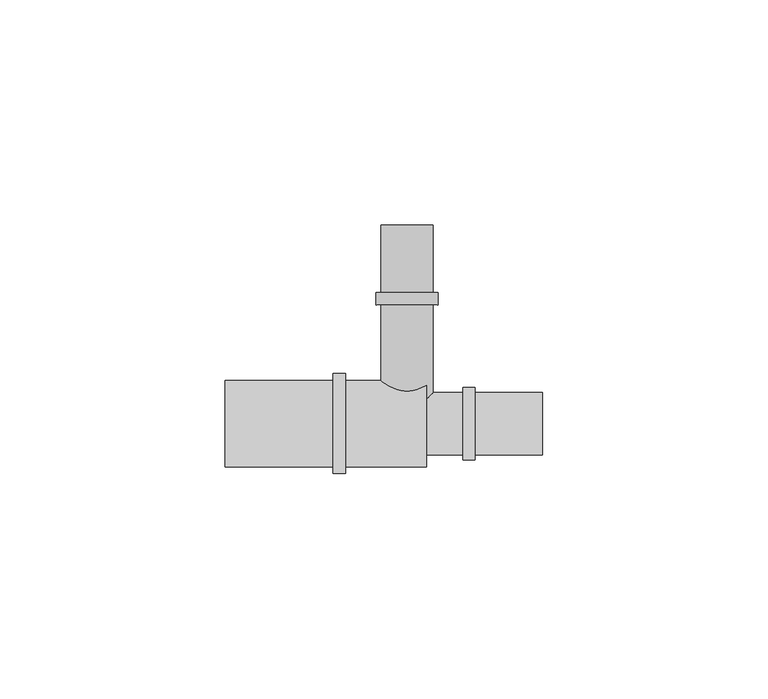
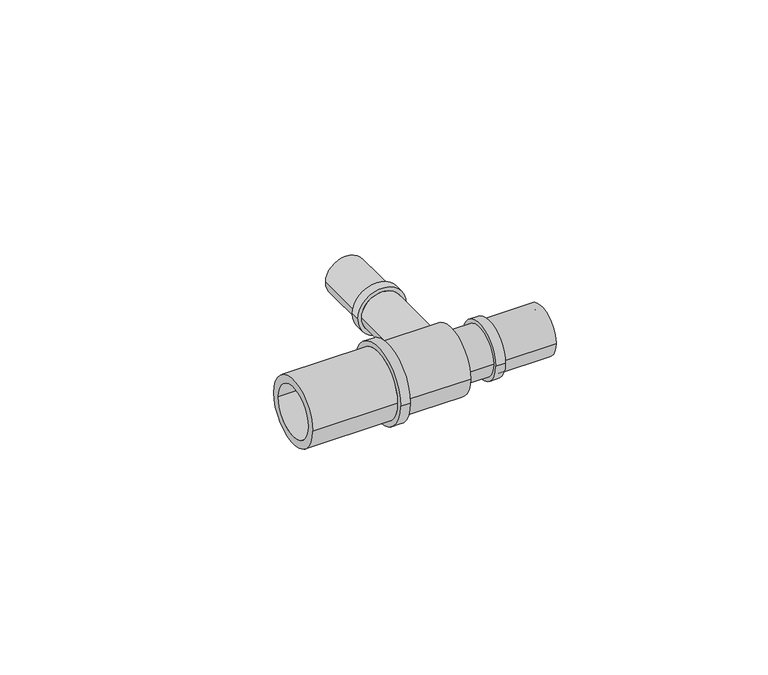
"""IFC4 building model written with IfcOpenShell, lengths in millimetres: pipe fitting geometry, FASTLOC_T-piece_LX : FSL T-Piece LX PL."""

from ifc_helpers import new_model, si_unit, frame, origin, place, context, project, spatial, polyline, circle_curve, source, transform, mapped, element, save
from ifc_brep_helpers import plane_surface, cylinder_surface, revolved_surface, advanced_brep


def pipe_fitting_b03326a8(model_context):
    return source(origin(), model_context, "Body", "AdvancedBrep", [
        advanced_brep(
        [(3.95, 44.1, 0.0), (-3.95, 44.1, 0.0), (-3.95, 0.0, 0.0), (3.95, 0.0, 0.0), (5.8, 0.0, 0.0), (-5.8, 0.0, 0.0), (-5.8, 26.39, 0.0), (5.8, 26.39, 0.0), (6.9, 26.39, 0.0), (-6.9, 26.39, 0.0), (-6.9, 29.1, 0.0), (6.9, 29.1, 0.0), (5.8, 29.1, 0.0), (-5.8, 29.1, 0.0), (-5.8, 44.1, 0.0), (5.8, 44.1, 0.0)],
        [
            (0, 1, circle_curve(frame((0.0, 44.1, 0.0), z_axis=(0.0, 1.0, 0.0), x_axis=(-1.0, 0.0, 0.0)), 3.95)),
            (1, 2),
            (2, 3, circle_curve(frame((0.0, 0.0, 0.0), z_axis=(0.0, -1.0, 0.0), x_axis=(-1.0, 0.0, 0.0)), 3.95)),
            (3, 0),
            (4, 5, circle_curve(frame((0.0, 0.0, 0.0), z_axis=(0.0, 1.0, 0.0), x_axis=(-1.0, 0.0, 0.0)), 5.8)),
            (5, 6),
            (6, 7, circle_curve(frame((0.0, 26.39, 0.0), z_axis=(0.0, -1.0, 0.0), x_axis=(-1.0, 0.0, 0.0)), 5.8)),
            (7, 4),
            (8, 9, circle_curve(frame((0.0, 26.39, 0.0), z_axis=(0.0, 1.0, 0.0), x_axis=(-1.0, 0.0, 0.0)), 6.9)),
            (9, 10),
            (10, 11, circle_curve(frame((0.0, 29.1, 0.0), z_axis=(0.0, -1.0, 0.0), x_axis=(-1.0, 0.0, 0.0)), 6.9)),
            (11, 8),
            (12, 13, circle_curve(frame((0.0, 29.1, 0.0), z_axis=(0.0, 1.0, 0.0), x_axis=(-1.0, 0.0, 0.0)), 5.8)),
            (13, 14),
            (14, 15, circle_curve(frame((0.0, 44.1, 0.0), z_axis=(0.0, -1.0, 0.0), x_axis=(-1.0, 0.0, 0.0)), 5.8)),
            (15, 12),
            (1, 0, circle_curve(frame((0.0, 44.1, 0.0), z_axis=(0.0, 1.0, 0.0), x_axis=(1.0, 0.0, 0.0)), 3.95)),
            (3, 2, circle_curve(frame((0.0, 0.0, 0.0), z_axis=(0.0, -1.0, 0.0), x_axis=(1.0, 0.0, 0.0)), 3.95)),
            (4, 5, circle_curve(frame((0.0, 0.0, 0.0), z_axis=(0.0, -1.0, 0.0), x_axis=(1.0, 0.0, 0.0)), 5.8)),
            (7, 6, circle_curve(frame((0.0, 26.39, 0.0), z_axis=(0.0, -1.0, 0.0), x_axis=(1.0, 0.0, 0.0)), 5.8)),
            (8, 9, circle_curve(frame((0.0, 26.39, 0.0), z_axis=(0.0, -1.0, 0.0), x_axis=(1.0, 0.0, 0.0)), 6.9)),
            (11, 10, circle_curve(frame((0.0, 29.1, 0.0), z_axis=(0.0, -1.0, 0.0), x_axis=(1.0, 0.0, 0.0)), 6.9)),
            (12, 13, circle_curve(frame((0.0, 29.1, 0.0), z_axis=(0.0, -1.0, 0.0), x_axis=(1.0, 0.0, 0.0)), 5.8)),
            (15, 14, circle_curve(frame((0.0, 44.1, 0.0), z_axis=(0.0, -1.0, 0.0), x_axis=(1.0, 0.0, 0.0)), 5.8)),
        ],
        [
            revolved_surface(polyline([(-3.95, 0.0, 0.0), (-3.95, 44.1, 0.0)]), (0.0, 0.0, 0.0), (0.0, -1.0, 0.0)),
            cylinder_surface(frame((0.0, 0.0, 0.0), z_axis=(0.0, -1.0, 0.0), x_axis=(-1.0, 0.0, 0.0)), 5.8),
            cylinder_surface(frame((0.0, 0.0, 0.0), z_axis=(0.0, -1.0, 0.0), x_axis=(-1.0, 0.0, 0.0)), 6.9),
            revolved_surface(polyline([(3.95, 0.0, 0.0), (3.95, 44.1, 0.0)]), (0.0, 0.0, 0.0), (0.0, -1.0, 0.0)),
            plane_surface(frame((0.0, 0.0, 0.0), z_axis=(0.0, -1.0, 0.0), x_axis=(1.0, 0.0, 0.0))),
            cylinder_surface(frame((0.0, 0.0, 0.0), z_axis=(0.0, -1.0, 0.0), x_axis=(1.0, 0.0, 0.0)), 5.8),
            plane_surface(frame((0.0, 26.39, 0.0), z_axis=(0.0, -1.0, 0.0), x_axis=(1.0, 0.0, 0.0))),
            cylinder_surface(frame((0.0, 0.0, 0.0), z_axis=(0.0, -1.0, 0.0), x_axis=(1.0, 0.0, 0.0)), 6.9),
            plane_surface(frame((0.0, 29.1, 0.0), z_axis=(0.0, 1.0, 0.0), x_axis=(1.0, 0.0, 0.0))),
            plane_surface(frame((0.0, 44.1, 0.0), z_axis=(0.0, 1.0, 0.0), x_axis=(1.0, 0.0, 0.0))),
        ],
        [
            (0, [[1, 2, 3, 4]]),
            (1, [[5, 6, 7, 8]]),
            (2, [[9, 10, 11, 12]]),
            (1, [[13, 14, 15, 16]]),
            (3, [[17, -4, 18, -2]]),
            (4, [[19, -5], [-18, -3]]),
            (5, [[-19, -8, 20, -6]]),
            (6, [[21, -9], [-20, -7]]),
            (7, [[-21, -12, 22, -10]]),
            (8, [[-22, -11], [23, -13]]),
            (5, [[-23, -16, 24, -14]]),
            (9, [[-24, -15], [-17, -1]]),
        ],
    ),
        advanced_brep(
        [(12.39, 6.95, 0.0), (12.39, -6.95, 0.0), (4.35, -6.95, 0.0), (4.35, 6.95, 0.0), (15.1, 8.05, 0.0), (15.1, -8.05, 0.0), (12.39, -8.05, 0.0), (12.39, 8.05, 0.0), (30.1, 6.95, 0.0), (30.1, -6.95, 0.0), (15.1, -6.95, 0.0), (15.1, 6.95, 0.0), (2.5, 5.1, 0.0), (2.5, -5.1, 0.0), (30.1, -5.1, 0.0), (30.1, 5.1, 0.0), (-40.4, 7.35, 0.0), (-40.4, -7.35, 0.0), (2.5, -7.35, 0.0), (2.5, 7.35, 0.0), (-16.4, 9.6, 0.0), (-16.4, -9.6, 0.0), (-40.4, -9.6, 0.0), (-40.4, 9.6, 0.0), (-13.6, 11.1, 0.0), (-13.6, -11.1, 0.0), (-16.4, -11.1, 0.0), (-16.4, 11.1, 0.0), (4.35, 9.6, 0.0), (4.35, -9.6, 0.0), (-13.6, -9.6, 0.0), (-13.6, 9.6, 0.0)],
        [
            (0, 1, circle_curve(frame((12.39, 0.0, 0.0), z_axis=(-1.0, 0.0, 0.0), x_axis=(0.0, -1.0, 0.0)), 6.95)),
            (1, 2),
            (2, 3, circle_curve(frame((4.35, 0.0, 0.0), z_axis=(1.0, 0.0, 0.0), x_axis=(0.0, -1.0, 0.0)), 6.95)),
            (3, 0),
            (4, 5, circle_curve(frame((15.1, 0.0, 0.0), z_axis=(-1.0, 0.0, 0.0), x_axis=(0.0, -1.0, 0.0)), 8.05)),
            (5, 6),
            (6, 7, circle_curve(frame((12.39, 0.0, 0.0), z_axis=(1.0, 0.0, 0.0), x_axis=(0.0, -1.0, 0.0)), 8.05)),
            (7, 4),
            (8, 9, circle_curve(frame((30.1, 0.0, 0.0), z_axis=(-1.0, 0.0, 0.0), x_axis=(0.0, -1.0, 0.0)), 6.95)),
            (9, 10),
            (10, 11, circle_curve(frame((15.1, 0.0, 0.0), z_axis=(1.0, 0.0, 0.0), x_axis=(0.0, -1.0, 0.0)), 6.95)),
            (11, 8),
            (12, 13, circle_curve(frame((2.5, 0.0, 0.0), z_axis=(-1.0, 0.0, 0.0), x_axis=(0.0, -1.0, 0.0)), 5.1)),
            (13, 14),
            (14, 15, circle_curve(frame((30.1, 0.0, 0.0), z_axis=(1.0, 0.0, 0.0), x_axis=(0.0, -1.0, 0.0)), 5.1)),
            (15, 12),
            (16, 17, circle_curve(frame((-40.4, 0.0, 0.0), z_axis=(-1.0, 0.0, 0.0), x_axis=(0.0, -1.0, 0.0)), 7.35)),
            (17, 18),
            (18, 19, circle_curve(frame((2.5, 0.0, 0.0), z_axis=(1.0, 0.0, 0.0), x_axis=(0.0, -1.0, 0.0)), 7.35)),
            (19, 16),
            (20, 21, circle_curve(frame((-16.4, 0.0, 0.0), z_axis=(-1.0, 0.0, 0.0), x_axis=(0.0, -1.0, 0.0)), 9.6)),
            (21, 22),
            (22, 23, circle_curve(frame((-40.4, 0.0, 0.0), z_axis=(1.0, 0.0, 0.0), x_axis=(0.0, -1.0, 0.0)), 9.6)),
            (23, 20),
            (24, 25, circle_curve(frame((-13.6, 0.0, 0.0), z_axis=(-1.0, 0.0, 0.0), x_axis=(0.0, -1.0, 0.0)), 11.1)),
            (25, 26),
            (26, 27, circle_curve(frame((-16.4, 0.0, 0.0), z_axis=(1.0, 0.0, 0.0), x_axis=(0.0, -1.0, 0.0)), 11.1)),
            (27, 24),
            (28, 29, circle_curve(frame((4.35, 0.0, 0.0), z_axis=(-1.0, 0.0, 0.0), x_axis=(0.0, -1.0, 0.0)), 9.6)),
            (29, 30),
            (30, 31, circle_curve(frame((-13.6, 0.0, 0.0), z_axis=(1.0, 0.0, 0.0), x_axis=(0.0, -1.0, 0.0)), 9.6)),
            (31, 28),
            (28, 29, circle_curve(frame((4.35, 0.0, 0.0), z_axis=(1.0, 0.0, 0.0), x_axis=(0.0, 1.0, 0.0)), 9.6)),
            (2, 3, circle_curve(frame((4.35, 0.0, 0.0), z_axis=(-1.0, 0.0, 0.0), x_axis=(0.0, 1.0, 0.0)), 6.95)),
            (1, 0, circle_curve(frame((12.39, 0.0, 0.0), z_axis=(-1.0, 0.0, 0.0), x_axis=(0.0, 1.0, 0.0)), 6.95)),
            (6, 7, circle_curve(frame((12.39, 0.0, 0.0), z_axis=(-1.0, 0.0, 0.0), x_axis=(0.0, 1.0, 0.0)), 8.05)),
            (5, 4, circle_curve(frame((15.1, 0.0, 0.0), z_axis=(-1.0, 0.0, 0.0), x_axis=(0.0, 1.0, 0.0)), 8.05)),
            (10, 11, circle_curve(frame((15.1, 0.0, 0.0), z_axis=(-1.0, 0.0, 0.0), x_axis=(0.0, 1.0, 0.0)), 6.95)),
            (9, 8, circle_curve(frame((30.1, 0.0, 0.0), z_axis=(-1.0, 0.0, 0.0), x_axis=(0.0, 1.0, 0.0)), 6.95)),
            (14, 15, circle_curve(frame((30.1, 0.0, 0.0), z_axis=(-1.0, 0.0, 0.0), x_axis=(0.0, 1.0, 0.0)), 5.1)),
            (13, 12, circle_curve(frame((2.5, 0.0, 0.0), z_axis=(-1.0, 0.0, 0.0), x_axis=(0.0, 1.0, 0.0)), 5.1)),
            (18, 19, circle_curve(frame((2.5, 0.0, 0.0), z_axis=(-1.0, 0.0, 0.0), x_axis=(0.0, 1.0, 0.0)), 7.35)),
            (17, 16, circle_curve(frame((-40.4, 0.0, 0.0), z_axis=(-1.0, 0.0, 0.0), x_axis=(0.0, 1.0, 0.0)), 7.35)),
            (22, 23, circle_curve(frame((-40.4, 0.0, 0.0), z_axis=(-1.0, 0.0, 0.0), x_axis=(0.0, 1.0, 0.0)), 9.6)),
            (21, 20, circle_curve(frame((-16.4, 0.0, 0.0), z_axis=(-1.0, 0.0, 0.0), x_axis=(0.0, 1.0, 0.0)), 9.6)),
            (26, 27, circle_curve(frame((-16.4, 0.0, 0.0), z_axis=(-1.0, 0.0, 0.0), x_axis=(0.0, 1.0, 0.0)), 11.1)),
            (25, 24, circle_curve(frame((-13.6, 0.0, 0.0), z_axis=(-1.0, 0.0, 0.0), x_axis=(0.0, 1.0, 0.0)), 11.1)),
            (30, 31, circle_curve(frame((-13.6, 0.0, 0.0), z_axis=(-1.0, 0.0, 0.0), x_axis=(0.0, 1.0, 0.0)), 9.6)),
        ],
        [
            cylinder_surface(frame((0.0, 0.0, 0.0), z_axis=(1.0, 0.0, 0.0), x_axis=(0.0, -1.0, 0.0)), 6.95),
            cylinder_surface(frame((0.0, 0.0, 0.0), z_axis=(1.0, 0.0, 0.0), x_axis=(0.0, -1.0, 0.0)), 8.05),
            revolved_surface(polyline([(30.1, -5.1, 0.0), (2.5, -5.1, 0.0)]), (0.0, 0.0, 0.0), (1.0, 0.0, 0.0)),
            revolved_surface(polyline([(2.5, -7.35, 0.0), (-40.4, -7.35, 0.0)]), (0.0, 0.0, 0.0), (1.0, 0.0, 0.0)),
            cylinder_surface(frame((0.0, 0.0, 0.0), z_axis=(1.0, 0.0, 0.0), x_axis=(0.0, -1.0, 0.0)), 9.6),
            cylinder_surface(frame((0.0, 0.0, 0.0), z_axis=(1.0, 0.0, 0.0), x_axis=(0.0, -1.0, 0.0)), 11.1),
            plane_surface(frame((4.35, 0.0, 0.0), z_axis=(1.0, 0.0, 0.0), x_axis=(0.0, 1.0, 0.0))),
            cylinder_surface(frame((0.0, 0.0, 0.0), z_axis=(1.0, 0.0, 0.0), x_axis=(0.0, 1.0, 0.0)), 6.95),
            plane_surface(frame((12.39, 0.0, 0.0), z_axis=(-1.0, 0.0, 0.0), x_axis=(0.0, 1.0, 0.0))),
            cylinder_surface(frame((0.0, 0.0, 0.0), z_axis=(1.0, 0.0, 0.0), x_axis=(0.0, 1.0, 0.0)), 8.05),
            plane_surface(frame((15.1, 0.0, 0.0), z_axis=(1.0, 0.0, 0.0), x_axis=(0.0, 1.0, 0.0))),
            plane_surface(frame((30.1, 0.0, 0.0), z_axis=(1.0, 0.0, 0.0), x_axis=(0.0, 1.0, 0.0))),
            revolved_surface(polyline([(30.1, 5.1, 0.0), (2.5, 5.1, 0.0)]), (0.0, 0.0, 0.0), (1.0, 0.0, 0.0)),
            plane_surface(frame((2.5, 0.0, 0.0), z_axis=(-1.0, 0.0, 0.0), x_axis=(0.0, 1.0, 0.0))),
            revolved_surface(polyline([(2.5, 7.35, 0.0), (-40.4, 7.35, 0.0)]), (0.0, 0.0, 0.0), (1.0, 0.0, 0.0)),
            plane_surface(frame((-40.4, 0.0, 0.0), z_axis=(-1.0, 0.0, 0.0), x_axis=(0.0, 1.0, 0.0))),
            cylinder_surface(frame((0.0, 0.0, 0.0), z_axis=(1.0, 0.0, 0.0), x_axis=(0.0, 1.0, 0.0)), 9.6),
            plane_surface(frame((-16.4, 0.0, 0.0), z_axis=(-1.0, 0.0, 0.0), x_axis=(0.0, 1.0, 0.0))),
            cylinder_surface(frame((0.0, 0.0, 0.0), z_axis=(1.0, 0.0, 0.0), x_axis=(0.0, 1.0, 0.0)), 11.1),
            plane_surface(frame((-13.6, 0.0, 0.0), z_axis=(1.0, 0.0, 0.0), x_axis=(0.0, 1.0, 0.0))),
        ],
        [
            (0, [[1, 2, 3, 4]]),
            (1, [[5, 6, 7, 8]]),
            (0, [[9, 10, 11, 12]]),
            (2, [[13, 14, 15, 16]]),
            (3, [[17, 18, 19, 20]]),
            (4, [[21, 22, 23, 24]]),
            (5, [[25, 26, 27, 28]]),
            (4, [[29, 30, 31, 32]]),
            (6, [[33, -29], [34, -3]]),
            (7, [[35, -4, -34, -2]]),
            (8, [[36, -7], [-35, -1]]),
            (9, [[37, -8, -36, -6]]),
            (10, [[-37, -5], [38, -11]]),
            (7, [[39, -12, -38, -10]]),
            (11, [[-39, -9], [40, -15]]),
            (12, [[41, -16, -40, -14]]),
            (13, [[42, -19], [-41, -13]]),
            (14, [[43, -20, -42, -18]]),
            (15, [[44, -23], [-43, -17]]),
            (16, [[45, -24, -44, -22]]),
            (17, [[46, -27], [-45, -21]]),
            (18, [[47, -28, -46, -26]]),
            (19, [[-47, -25], [48, -31]]),
            (16, [[-33, -32, -48, -30]]),
        ],
    ),
    ])


if __name__ == "__main__":
    model = new_model("IFC4")
    model_context = context("Model", 3, world=origin())
    ifc_project = project(units=[si_unit("LENGTHUNIT", "METRE", prefix="MILLI")], contexts=[model_context])
    site = spatial("IfcSite", under=ifc_project)
    building = spatial("IfcBuilding", under=site)
    placement = place(None, origin())
    pipe_fitting_shape = pipe_fitting_b03326a8(model_context)
    element("IfcPipeFitting", 1, ObjectType="FASTLOC_T-piece_LX : FSL T-Piece LX PL", at=placement, inside=building, context=model_context, shape_type="MappedRepresentation", body=[
        mapped(pipe_fitting_shape, transform((0.0, 0.0, 0.0), x_axis=(1.0, 0.0, 0.0), y_axis=(0.0, 1.0, 0.0), z_axis=(0.0, 0.0, 1.0))),
    ])
    save(model, "model.ifc")
